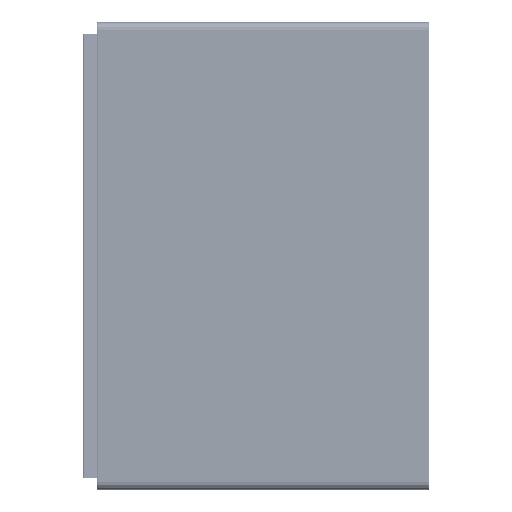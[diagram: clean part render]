
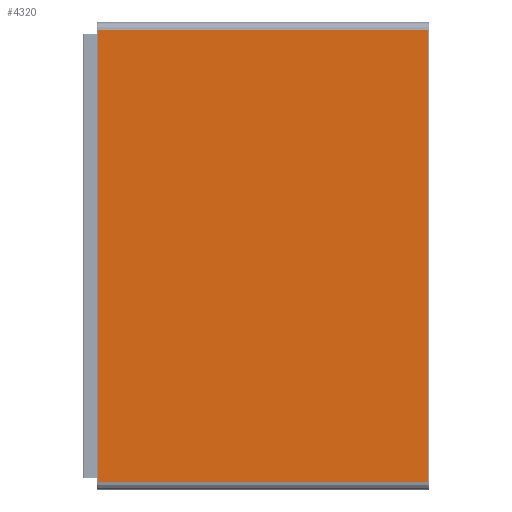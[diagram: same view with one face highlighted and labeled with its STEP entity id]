
A CAD part, front view. The second image highlights one B-rep face of the part: STEP entity #4320.
In plain terms, the highlighted planar face has unit normal (0, -1, 0) as drawn and (0, 1, 0) by its records, which use the part's own axes.
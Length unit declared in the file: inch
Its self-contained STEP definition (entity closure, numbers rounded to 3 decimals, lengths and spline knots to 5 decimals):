
#1411 = DIRECTION ( 'NONE',  ( 0., 0., 1. ) ) ;
#1611 = DIRECTION ( 'NONE',  ( 0., 1., 0. ) ) ;
#4320 = ADVANCED_FACE ( 'NONE', ( #116266 ), #58897, .T. ) ;
#9123 = EDGE_CURVE ( 'NONE', #36902, #40036, #13350, .T. ) ;
#11886 = CARTESIAN_POINT ( 'NONE',  ( 1.8525, 0.1, -2.53125 ) ) ;
#13350 = LINE ( 'NONE', #11886, #45069 ) ;
#16424 = ORIENTED_EDGE ( 'NONE', *, *, #55948, .T. ) ;
#35549 = CARTESIAN_POINT ( 'NONE',  ( -1.8625, 0.1, -2.53125 ) ) ;
#36001 = CARTESIAN_POINT ( 'NONE',  ( 0., 0.1, 0. ) ) ;
#36902 = VERTEX_POINT ( 'NONE', #55445 ) ;
#40036 = VERTEX_POINT ( 'NONE', #106180 ) ;
#45069 = VECTOR ( 'NONE', #141043, 39.37008 ) ;
#45156 = LINE ( 'NONE', #92492, #59699 ) ;
#47275 = CARTESIAN_POINT ( 'NONE',  ( -1.8525, 0.1, 2.53125 ) ) ;
#53980 = ORIENTED_EDGE ( 'NONE', *, *, #65889, .T. ) ;
#55445 = CARTESIAN_POINT ( 'NONE',  ( 1.8525, 0.1, 2.53125 ) ) ;
#55948 = EDGE_CURVE ( 'NONE', #87923, #36902, #45156, .T. ) ;
#58897 = PLANE ( 'NONE',  #119295 ) ;
#59699 = VECTOR ( 'NONE', #139169, 39.37008 ) ;
#65889 = EDGE_CURVE ( 'NONE', #97503, #87923, #129044, .T. ) ;
#68431 = DIRECTION ( 'NONE',  ( -1., 0., 0. ) ) ;
#68566 = EDGE_LOOP ( 'NONE', ( #97445, #53980, #16424, #141561 ) ) ;
#83554 = VECTOR ( 'NONE', #68431, 39.37008 ) ;
#87923 = VERTEX_POINT ( 'NONE', #142181 ) ;
#90788 = VECTOR ( 'NONE', #1411, 39.37008 ) ;
#92492 = CARTESIAN_POINT ( 'NONE',  ( 1.8625, 0.1, 2.53125 ) ) ;
#97445 = ORIENTED_EDGE ( 'NONE', *, *, #138564, .T. ) ;
#97503 = VERTEX_POINT ( 'NONE', #116588 ) ;
#105526 = DIRECTION ( 'NONE',  ( 0., 0., 1. ) ) ;
#106180 = CARTESIAN_POINT ( 'NONE',  ( 1.8525, 0.1, -2.53125 ) ) ;
#116266 = FACE_OUTER_BOUND ( 'NONE', #68566, .T. ) ;
#116588 = CARTESIAN_POINT ( 'NONE',  ( -1.8525, 0.1, -2.53125 ) ) ;
#119295 = AXIS2_PLACEMENT_3D ( 'NONE', #36001, #1611, #105526 ) ;
#129044 = LINE ( 'NONE', #47275, #90788 ) ;
#138564 = EDGE_CURVE ( 'NONE', #40036, #97503, #150264, .T. ) ;
#139169 = DIRECTION ( 'NONE',  ( 1., 0., 0. ) ) ;
#141043 = DIRECTION ( 'NONE',  ( 0., 0., -1. ) ) ;
#141561 = ORIENTED_EDGE ( 'NONE', *, *, #9123, .T. ) ;
#142181 = CARTESIAN_POINT ( 'NONE',  ( -1.8525, 0.1, 2.53125 ) ) ;
#150264 = LINE ( 'NONE', #35549, #83554 ) ;
